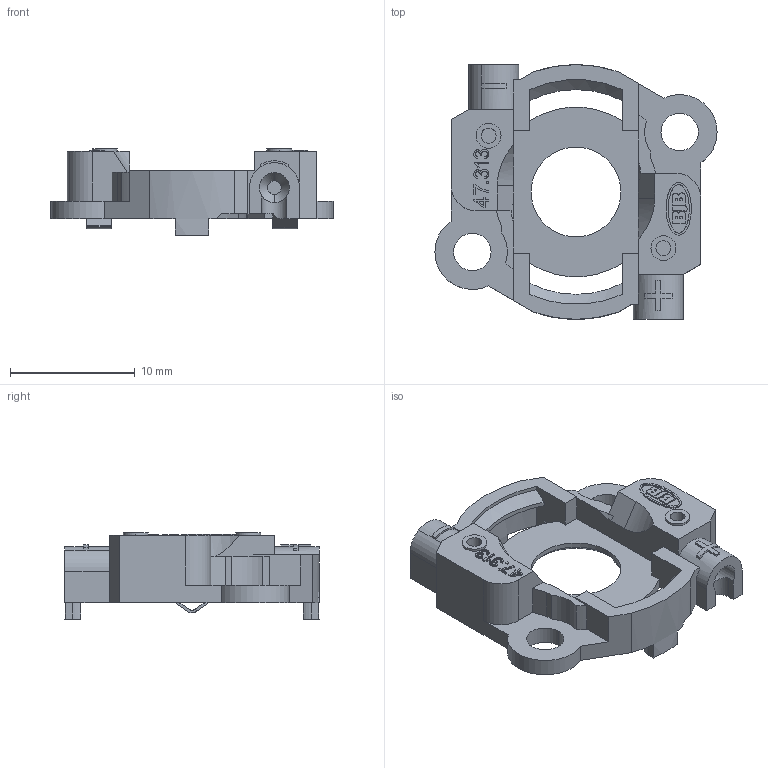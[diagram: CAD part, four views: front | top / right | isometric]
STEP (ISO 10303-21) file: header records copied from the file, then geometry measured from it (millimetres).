
FILE_DESCRIPTION((' '),'1');
FILE_NAME('01GY30JY03.stp','2009-01-28 T',(' '),(' '),'STEP Interface v1.0 by CT CoreTechnologie','3D_Evolution v1.0 by CT CoreTechnologie',' ');
FILE_SCHEMA(('CONFIG_CONTROL_DESIGN'));
Length unit declared in the file: millimetre
Products named in the file (1): 01GY30JY03
Bounding box: 22.6 x 20.4 x 6.9 mm (x, y, z)
Volume: 767.1 mm3; surface area: 1304.6 mm2
Topology: 1 solids, 1 shells, 316 faces, 876 edges, 580 vertices
Faces by surface type: plane 201, cylinder 103, bspline 12
Entity records: 13278 total; most frequent: CARTESIAN_POINT 2156, ORIENTED_EDGE 1748, DIRECTION 1703, EDGE_CURVE 874, VECTOR 625, LINE 625, VERTEX_POINT 580, AXIS2_PLACEMENT_3D 539
